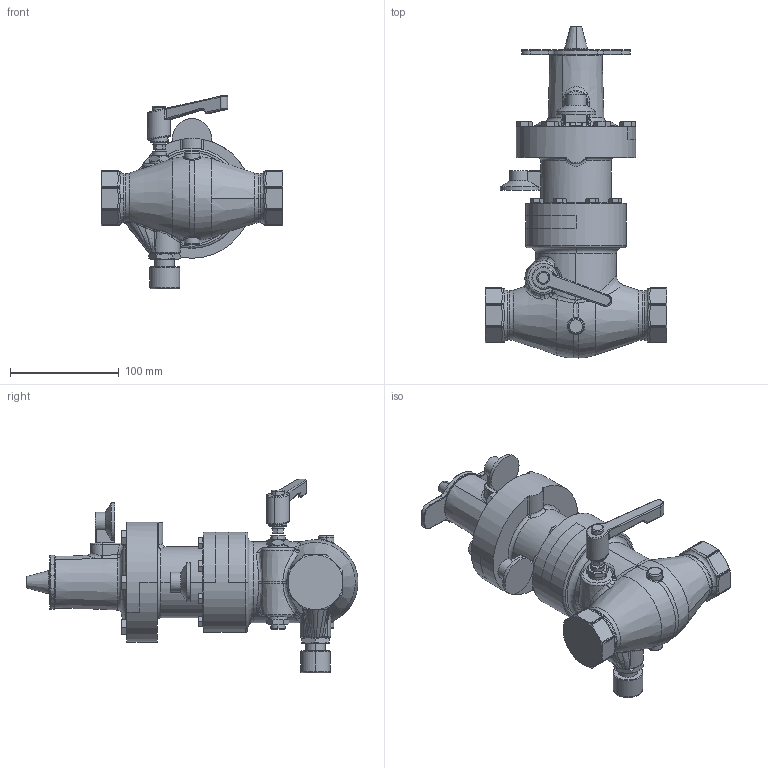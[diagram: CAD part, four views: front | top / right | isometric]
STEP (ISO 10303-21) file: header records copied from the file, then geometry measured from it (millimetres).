
FILE_DESCRIPTION((''),'2;1');
FILE_NAME('226052_ASM_GIPS_1_150_SW0001','2020-04-17T',('jjunior'),(''),'PRO/ENGINEER BY PARAMETRIC TECHNOLOGY CORPORATION, 2010160','PRO/ENGINEER BY PARAMETRIC TECHNOLOGY CORPORATION, 2010160','');
FILE_SCHEMA(('CONFIG_CONTROL_DESIGN'));
Length unit declared in the file: millimetre
Products named in the file (1): 226052_ASM_GIPS_1_150_SW0001
Bounding box: 167 x 304.75 x 177.9 mm (x, y, z)
Volume: 1572995.4 mm3; surface area: 129657.8 mm2
Topology: 2 solids, 2 shells, 1092 faces, 2734 edges, 1692 vertices
Faces by surface type: plane 529, cylinder 159, cone 153, bspline 152, torus 73, sphere 26
Entity records: 45541 total; most frequent: CARTESIAN_POINT 21057, ORIENTED_EDGE 5468, DIRECTION 4529, EDGE_CURVE 2734, VERTEX_POINT 1692, AXIS2_PLACEMENT_3D 1571, VECTOR 1387, LINE 1387
